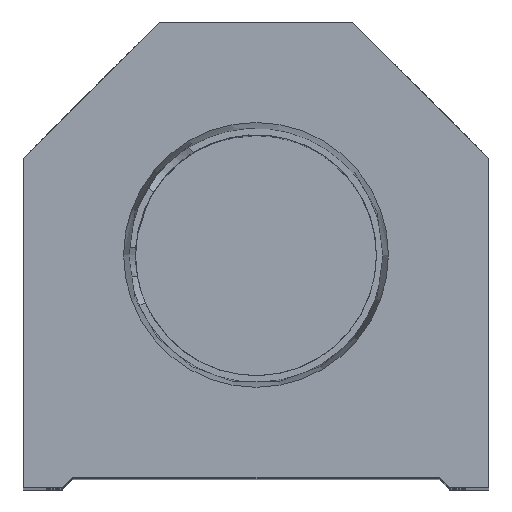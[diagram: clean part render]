
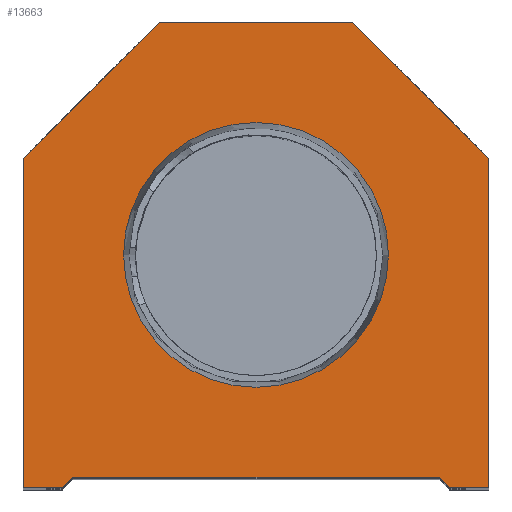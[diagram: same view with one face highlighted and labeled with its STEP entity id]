
A CAD part, top view. The second image highlights one B-rep face of the part: STEP entity #13663.
In plain terms, the highlighted planar face has unit normal (0, 0, 1).
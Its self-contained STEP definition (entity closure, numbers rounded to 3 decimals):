
#133 = DIRECTION ( 'NONE',  ( 1., 0., 0. ) ) ;
#282 = VERTEX_POINT ( 'NONE', #17015 ) ;
#365 = DIRECTION ( 'NONE',  ( -0.707, -0.707, 0. ) ) ;
#653 = CARTESIAN_POINT ( 'NONE',  ( 9.25, 44.5, 0. ) ) ;
#678 = LINE ( 'NONE', #17088, #6016 ) ;
#680 = VECTOR ( 'NONE', #16347, 1000. ) ;
#800 = EDGE_CURVE ( 'NONE', #282, #5780, #12999, .T. ) ;
#937 = VECTOR ( 'NONE', #10095, 1000. ) ;
#1032 = DIRECTION ( 'NONE',  ( 0., 1., 0. ) ) ;
#1134 = VECTOR ( 'NONE', #7277, 1000. ) ;
#1184 = EDGE_CURVE ( 'NONE', #4860, #12630, #10083, .T. ) ;
#1454 = LINE ( 'NONE', #13570, #15982 ) ;
#1710 = EDGE_LOOP ( 'NONE', ( #5141, #14858, #11320, #2623, #5092, #15820, #15814, #2297, #3560, #9639 ) ) ;
#1798 = DIRECTION ( 'NONE',  ( 1., 0., 0. ) ) ;
#1832 = VECTOR ( 'NONE', #3575, 1000. ) ;
#1980 = CARTESIAN_POINT ( 'NONE',  ( -22.25, 31.5, 0. ) ) ;
#2234 = VECTOR ( 'NONE', #4319, 1000. ) ;
#2287 = VECTOR ( 'NONE', #1032, 1000. ) ;
#2297 = ORIENTED_EDGE ( 'NONE', *, *, #9534, .T. ) ;
#2396 = CARTESIAN_POINT ( 'NONE',  ( -9.25, 9.25, 0. ) ) ;
#2471 = VERTEX_POINT ( 'NONE', #18716 ) ;
#2623 = ORIENTED_EDGE ( 'NONE', *, *, #6622, .T. ) ;
#2675 = DIRECTION ( 'NONE',  ( 0., 0., 1. ) ) ;
#2759 = EDGE_CURVE ( 'NONE', #2471, #17715, #11087, .T. ) ;
#2789 = LINE ( 'NONE', #7363, #1134 ) ;
#3270 = FACE_BOUND ( 'NONE', #12023, .T. ) ;
#3560 = ORIENTED_EDGE ( 'NONE', *, *, #4012, .T. ) ;
#3575 = DIRECTION ( 'NONE',  ( 0.707, 0.707, 0. ) ) ;
#4012 = EDGE_CURVE ( 'NONE', #4358, #6139, #678, .T. ) ;
#4288 = EDGE_CURVE ( 'NONE', #6139, #8684, #17935, .T. ) ;
#4319 = DIRECTION ( 'NONE',  ( 0., -1., 0. ) ) ;
#4358 = VERTEX_POINT ( 'NONE', #6623 ) ;
#4711 = EDGE_CURVE ( 'NONE', #16592, #4860, #11955, .T. ) ;
#4860 = VERTEX_POINT ( 'NONE', #6375 ) ;
#5092 = ORIENTED_EDGE ( 'NONE', *, *, #4711, .T. ) ;
#5141 = ORIENTED_EDGE ( 'NONE', *, *, #17097, .T. ) ;
#5180 = LINE ( 'NONE', #2396, #1832 ) ;
#5585 = CARTESIAN_POINT ( 'NONE',  ( 17.5, 0., 0. ) ) ;
#5661 = VERTEX_POINT ( 'NONE', #12264 ) ;
#5780 = VERTEX_POINT ( 'NONE', #8647 ) ;
#5841 = EDGE_CURVE ( 'NONE', #17715, #2471, #8640, .T. ) ;
#6016 = VECTOR ( 'NONE', #365, 1000. ) ;
#6133 = CARTESIAN_POINT ( 'NONE',  ( -22.25, 0., 0. ) ) ;
#6139 = VERTEX_POINT ( 'NONE', #1980 ) ;
#6375 = CARTESIAN_POINT ( 'NONE',  ( 22.25, 0., 0. ) ) ;
#6622 = EDGE_CURVE ( 'NONE', #5780, #16592, #1454, .T. ) ;
#6623 = CARTESIAN_POINT ( 'NONE',  ( -9.25, 44.5, 0. ) ) ;
#6626 = AXIS2_PLACEMENT_3D ( 'NONE', #18206, #7592, #133 ) ;
#6951 = CARTESIAN_POINT ( 'NONE',  ( -18.5, 0., 0. ) ) ;
#7093 = VECTOR ( 'NONE', #19284, 1000. ) ;
#7164 = ORIENTED_EDGE ( 'NONE', *, *, #2759, .F. ) ;
#7277 = DIRECTION ( 'NONE',  ( 1., 0., 0. ) ) ;
#7363 = CARTESIAN_POINT ( 'NONE',  ( -17.5, 0., 0. ) ) ;
#7592 = DIRECTION ( 'NONE',  ( 0., 0., 1. ) ) ;
#8640 = CIRCLE ( 'NONE', #18138, 12.647 ) ;
#8647 = CARTESIAN_POINT ( 'NONE',  ( 17.5, 1., 0. ) ) ;
#8684 = VERTEX_POINT ( 'NONE', #16462 ) ;
#9534 = EDGE_CURVE ( 'NONE', #5661, #4358, #15755, .T. ) ;
#9639 = ORIENTED_EDGE ( 'NONE', *, *, #4288, .T. ) ;
#10053 = DIRECTION ( 'NONE',  ( 1., 0., 0. ) ) ;
#10083 = LINE ( 'NONE', #16140, #2287 ) ;
#10095 = DIRECTION ( 'NONE',  ( -1., 0., 0. ) ) ;
#10144 = EDGE_CURVE ( 'NONE', #12630, #5661, #14730, .T. ) ;
#10178 = DIRECTION ( 'NONE',  ( -0.707, 0.707, 0. ) ) ;
#10424 = VERTEX_POINT ( 'NONE', #6951 ) ;
#10743 = AXIS2_PLACEMENT_3D ( 'NONE', #15406, #11152, #1798 ) ;
#10851 = ORIENTED_EDGE ( 'NONE', *, *, #5841, .F. ) ;
#11087 = CIRCLE ( 'NONE', #6626, 12.647 ) ;
#11152 = DIRECTION ( 'NONE',  ( 0., 0., 1. ) ) ;
#11320 = ORIENTED_EDGE ( 'NONE', *, *, #800, .T. ) ;
#11764 = CARTESIAN_POINT ( 'NONE',  ( -12.647, 22.25, 0. ) ) ;
#11955 = LINE ( 'NONE', #5585, #7093 ) ;
#12023 = EDGE_LOOP ( 'NONE', ( #7164, #10851 ) ) ;
#12087 = EDGE_CURVE ( 'NONE', #10424, #282, #5180, .T. ) ;
#12264 = CARTESIAN_POINT ( 'NONE',  ( 9.25, 44.5, 0. ) ) ;
#12630 = VERTEX_POINT ( 'NONE', #19295 ) ;
#12644 = PLANE ( 'NONE',  #10743 ) ;
#12999 = LINE ( 'NONE', #13180, #680 ) ;
#13180 = CARTESIAN_POINT ( 'NONE',  ( -17.5, 1., 0. ) ) ;
#13570 = CARTESIAN_POINT ( 'NONE',  ( 9.25, 9.25, 0. ) ) ;
#13663 = ADVANCED_FACE ( 'NONE', ( #3270, #15596 ), #12644, .T. ) ;
#14730 = LINE ( 'NONE', #17706, #17768 ) ;
#14858 = ORIENTED_EDGE ( 'NONE', *, *, #12087, .T. ) ;
#14962 = CARTESIAN_POINT ( 'NONE',  ( 18.5, 0., 0. ) ) ;
#15406 = CARTESIAN_POINT ( 'NONE',  ( 0., 0., 0. ) ) ;
#15596 = FACE_OUTER_BOUND ( 'NONE', #1710, .T. ) ;
#15755 = LINE ( 'NONE', #653, #937 ) ;
#15814 = ORIENTED_EDGE ( 'NONE', *, *, #10144, .T. ) ;
#15820 = ORIENTED_EDGE ( 'NONE', *, *, #1184, .T. ) ;
#15982 = VECTOR ( 'NONE', #19613, 1000. ) ;
#16140 = CARTESIAN_POINT ( 'NONE',  ( 22.25, 0., 0. ) ) ;
#16296 = CARTESIAN_POINT ( 'NONE',  ( 0., 22.25, 0. ) ) ;
#16347 = DIRECTION ( 'NONE',  ( 1., 0., 0. ) ) ;
#16462 = CARTESIAN_POINT ( 'NONE',  ( -22.25, 0., 0. ) ) ;
#16592 = VERTEX_POINT ( 'NONE', #14962 ) ;
#17015 = CARTESIAN_POINT ( 'NONE',  ( -17.5, 1., 0. ) ) ;
#17088 = CARTESIAN_POINT ( 'NONE',  ( -22.25, 31.5, 0. ) ) ;
#17097 = EDGE_CURVE ( 'NONE', #8684, #10424, #2789, .T. ) ;
#17706 = CARTESIAN_POINT ( 'NONE',  ( 22.25, 31.5, 0. ) ) ;
#17715 = VERTEX_POINT ( 'NONE', #11764 ) ;
#17768 = VECTOR ( 'NONE', #10178, 1000. ) ;
#17935 = LINE ( 'NONE', #6133, #2234 ) ;
#18138 = AXIS2_PLACEMENT_3D ( 'NONE', #16296, #2675, #10053 ) ;
#18206 = CARTESIAN_POINT ( 'NONE',  ( 0., 22.25, 0. ) ) ;
#18716 = CARTESIAN_POINT ( 'NONE',  ( 12.647, 22.25, 0. ) ) ;
#19284 = DIRECTION ( 'NONE',  ( 1., 0., 0. ) ) ;
#19295 = CARTESIAN_POINT ( 'NONE',  ( 22.25, 31.5, 0. ) ) ;
#19613 = DIRECTION ( 'NONE',  ( 0.707, -0.707, 0. ) ) ;
